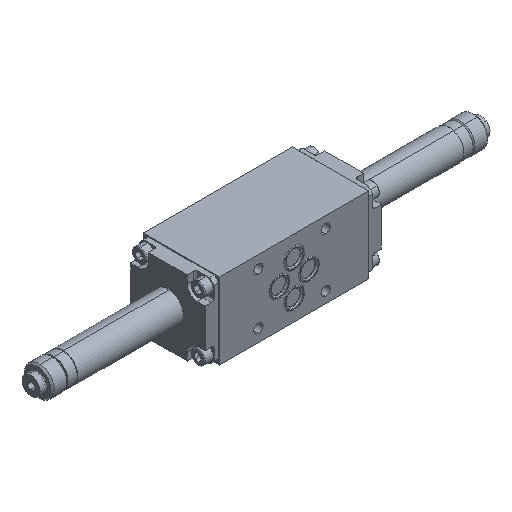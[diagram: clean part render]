
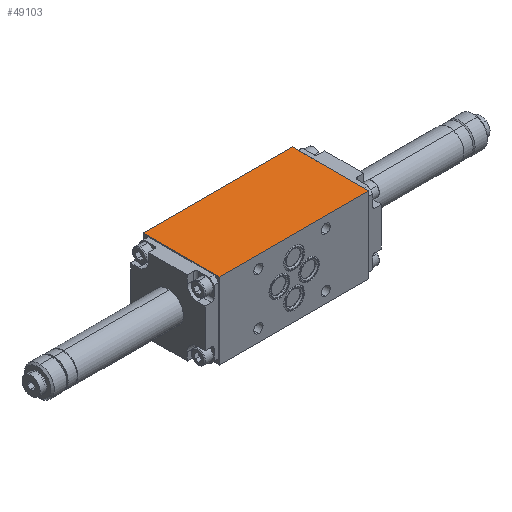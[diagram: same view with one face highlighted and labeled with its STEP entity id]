
A CAD part, isometric view. The second image highlights one B-rep face of the part: STEP entity #49103.
In plain terms, the highlighted planar face has unit normal (0, 0, 1).
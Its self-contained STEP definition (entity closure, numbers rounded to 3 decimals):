
#1729 = VERTEX_POINT ( 'NONE', #1867 ) ;
#1867 = CARTESIAN_POINT ( 'NONE',  ( 90., 23., 23. ) ) ;
#3008 = EDGE_LOOP ( 'NONE', ( #12666, #40795, #42846, #20983 ) ) ;
#4782 = VECTOR ( 'NONE', #51196, 1000. ) ;
#6346 = EDGE_CURVE ( 'NONE', #1729, #16281, #10736, .T. ) ;
#6727 = CARTESIAN_POINT ( 'NONE',  ( 0., 23., 23. ) ) ;
#10736 = LINE ( 'NONE', #44903, #56535 ) ;
#11235 = CARTESIAN_POINT ( 'NONE',  ( 90., -23., 23. ) ) ;
#12666 = ORIENTED_EDGE ( 'NONE', *, *, #19492, .T. ) ;
#14839 = VECTOR ( 'NONE', #23419, 1000. ) ;
#16231 = VERTEX_POINT ( 'NONE', #32686 ) ;
#16281 = VERTEX_POINT ( 'NONE', #6727 ) ;
#18141 = DIRECTION ( 'NONE',  ( -1., 0., 0. ) ) ;
#19153 = DIRECTION ( 'NONE',  ( 0., 0., -1. ) ) ;
#19492 = EDGE_CURVE ( 'NONE', #16281, #36391, #26665, .T. ) ;
#20983 = ORIENTED_EDGE ( 'NONE', *, *, #6346, .T. ) ;
#21407 = LINE ( 'NONE', #35715, #30411 ) ;
#22324 = DIRECTION ( 'NONE',  ( -1., 0., 0. ) ) ;
#23419 = DIRECTION ( 'NONE',  ( 0., -1., 0. ) ) ;
#26665 = LINE ( 'NONE', #49966, #14839 ) ;
#27919 = PLANE ( 'NONE',  #54396 ) ;
#28509 = EDGE_CURVE ( 'NONE', #1729, #16231, #51954, .T. ) ;
#30411 = VECTOR ( 'NONE', #22324, 1000. ) ;
#32417 = EDGE_CURVE ( 'NONE', #16231, #36391, #21407, .T. ) ;
#32686 = CARTESIAN_POINT ( 'NONE',  ( 90., -23., 23. ) ) ;
#35715 = CARTESIAN_POINT ( 'NONE',  ( 90., -23., 23. ) ) ;
#36391 = VERTEX_POINT ( 'NONE', #39543 ) ;
#39543 = CARTESIAN_POINT ( 'NONE',  ( 0., -23., 23. ) ) ;
#40795 = ORIENTED_EDGE ( 'NONE', *, *, #32417, .F. ) ;
#42846 = ORIENTED_EDGE ( 'NONE', *, *, #28509, .F. ) ;
#44903 = CARTESIAN_POINT ( 'NONE',  ( 90., 23., 23. ) ) ;
#45756 = CARTESIAN_POINT ( 'NONE',  ( 90., -23., 23. ) ) ;
#49103 = ADVANCED_FACE ( 'NONE', ( #52255 ), #27919, .F. ) ;
#49966 = CARTESIAN_POINT ( 'NONE',  ( 0., -23., 23. ) ) ;
#50199 = DIRECTION ( 'NONE',  ( -1., 0., 0. ) ) ;
#51196 = DIRECTION ( 'NONE',  ( 0., -1., 0. ) ) ;
#51954 = LINE ( 'NONE', #11235, #4782 ) ;
#52255 = FACE_OUTER_BOUND ( 'NONE', #3008, .T. ) ;
#54396 = AXIS2_PLACEMENT_3D ( 'NONE', #45756, #19153, #50199 ) ;
#56535 = VECTOR ( 'NONE', #18141, 1000. ) ;
